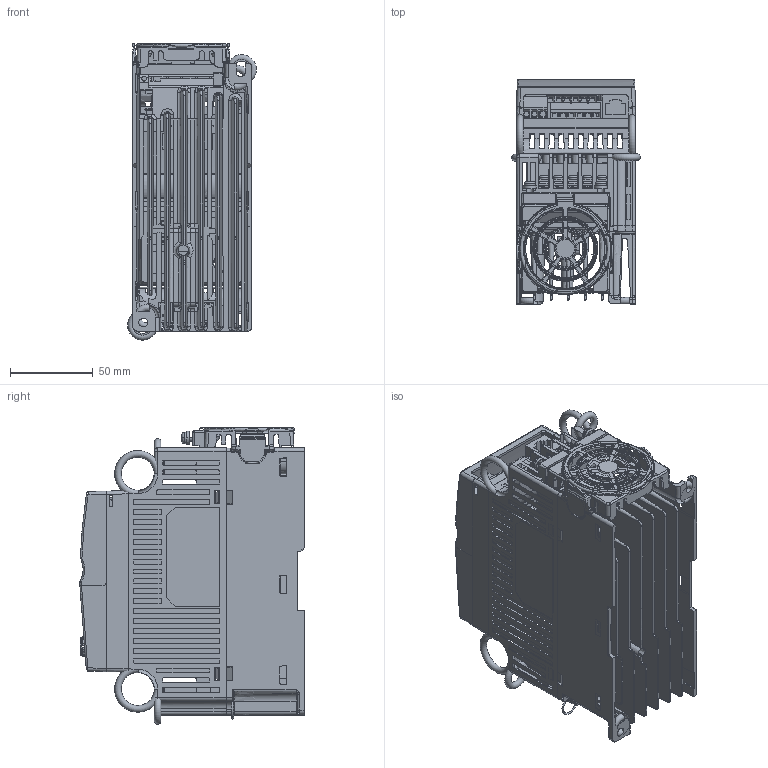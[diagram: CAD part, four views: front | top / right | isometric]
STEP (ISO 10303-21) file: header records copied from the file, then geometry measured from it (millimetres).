
FILE_DESCRIPTION((''),'2;1');
FILE_NAME('VFD-EL-A-PD-3D00','2009-11-13T',('STARCK.SUN'),(''),'PRO/ENGINEER BY PARAMETRIC TECHNOLOGY CORPORATION, 2007390','PRO/ENGINEER BY PARAMETRIC TECHNOLOGY CORPORATION, 2007390','');
FILE_SCHEMA(('CONFIG_CONTROL_DESIGN'));
Products named in the file (1): VFD-EL-A-PD-3D00
Bounding box: 77.98 x 136.11 x 179.47 mm (x, y, z)
Surface area: 183938 mm2 (no closed solid volume)
Topology: 0 solids, 0 shells, 1314 faces, 10046 edges, 9968 vertices
Faces by surface type: bspline 1206, torus 100, sphere 8
Entity records: 193131 total; most frequent: CARTESIAN_POINT 98142, DIRECTION 15632, TRIMMED_CURVE 13740, VECTOR 12064, LINE 12064, DEFINITIONAL_REPRESENTATION 9882, PCURVE 9882, COMPOSITE_CURVE_SEGMENT 9882
